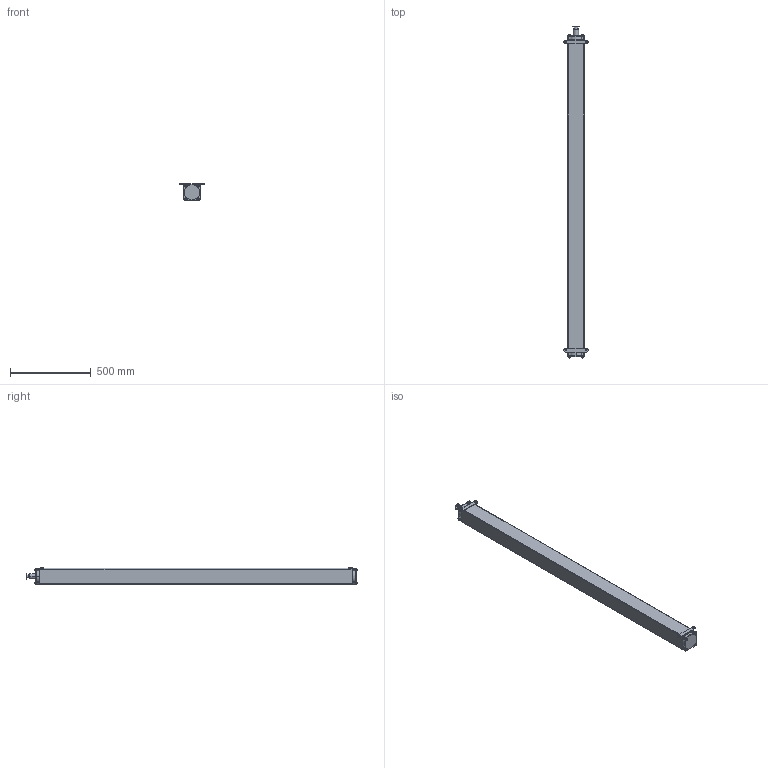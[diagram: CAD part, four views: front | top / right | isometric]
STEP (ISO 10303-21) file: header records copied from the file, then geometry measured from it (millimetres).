
FILE_DESCRIPTION((''),'2;1');
FILE_NAME('EFB-EX_ASM','2021-08-19T10:42:33',('18720616900'),(''),'CREO PARAMETRIC BY PTC INC, 2019010','CREO PARAMETRIC BY PTC INC, 2019010','');
FILE_SCHEMA(('CONFIG_CONTROL_DESIGN'));
Length unit declared in the file: millimetre
Products named in the file (6): EFB-EX-115; M6-50-0001; M6-1--00; M6-1-00; 0001_ASM; EFB-EX_ASM
Assembly tree (12 placements, depth 3):
  EFB-EX_ASM
    EFB-EX-115
    0001_ASM  x8
      M6-50-0001
      M6-1--00
      M6-1-00
Bounding box: 150 x 2059.5 x 104 mm (x, y, z)
Volume: 2308868.3 mm3; surface area: 1515031.4 mm2
Topology: 25 solids, 33 shells, 1249 faces, 3236 edges, 2074 vertices
Faces by surface type: cone 488, plane 265, bspline 264, cylinder 182, torus 50
Entity records: 19628 total; most frequent: CARTESIAN_POINT 10860, ORIENTED_EDGE 1806, DIRECTION 1736, EDGE_CURVE 919, AXIS2_PLACEMENT_3D 651, VERTEX_POINT 597, VECTOR 434, LINE 434
